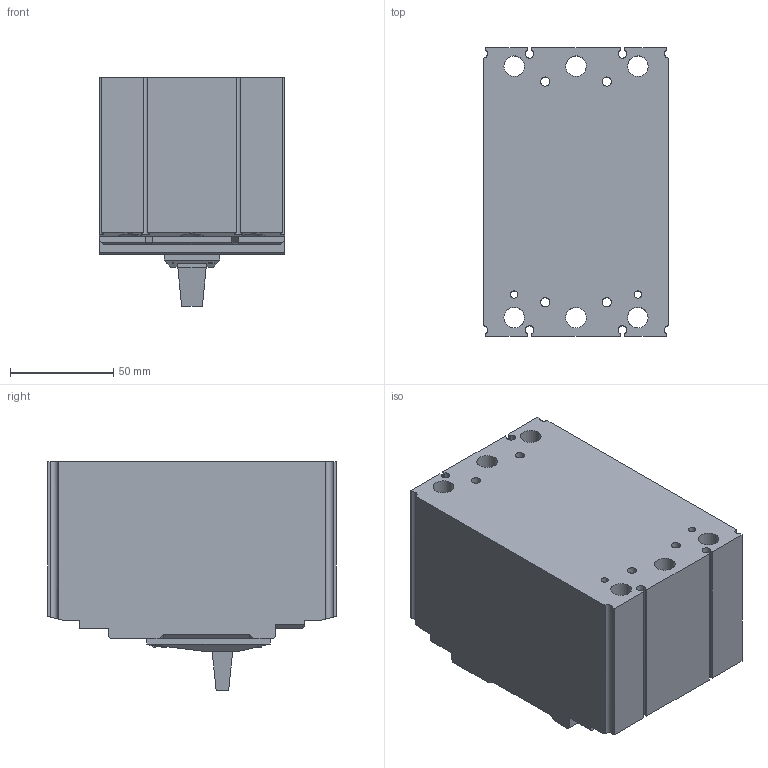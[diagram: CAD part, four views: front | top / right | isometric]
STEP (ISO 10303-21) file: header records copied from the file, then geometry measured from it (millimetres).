
FILE_DESCRIPTION(/* description */ ('','CAx-IF Rec.Pracs.---Representation and Presentation of Product Manufacturing Information (PMI)---3.8---2014-02-18'),/* implementation_level */ '2;1');
FILE_NAME(/* name */ 'E:\3D model\33-susol-mccb-160af-td-3p.stp',/* time_stamp */ '2017-11-09T14:49:05+03:00',/* author */ ('dobrin'),/* organization */ (''),/* preprocessor_version */ 'ST-DEVELOPER v16.13',/* originating_system */ 'Autodesk Inventor 2018',/* authorisation */ '');
FILE_SCHEMA (('AP242_MANAGED_MODEL_BASED_3D_ENGINEERING_MIM_LF { 1 0 10303 442 1 1 4 }'));
Length unit declared in the file: metre
Products named in the file (1): 33-susol-mccb-160af-td-3p
Bounding box: 90 x 140 x 111 mm (x, y, z)
Volume: 997246.7 mm3; surface area: 88735.3 mm2
Topology: 1 solids, 1 shells, 537 faces, 1525 edges, 1016 vertices
Faces by surface type: plane 479, cylinder 36, bspline 12, cone 10
Full cylindrical faces by diameter (mm): 1.9 x1, 2.5 x4, 3.34 x1, 3.6 x2, 4.5 x4, 10 x6
Entity records: 17883 total; most frequent: CARTESIAN_POINT 3898, ORIENTED_EDGE 2982, DIRECTION 2639, EDGE_CURVE 1491, LINE 1357, VECTOR 1357, VERTEX_POINT 1004, AXIS2_PLACEMENT_3D 645
